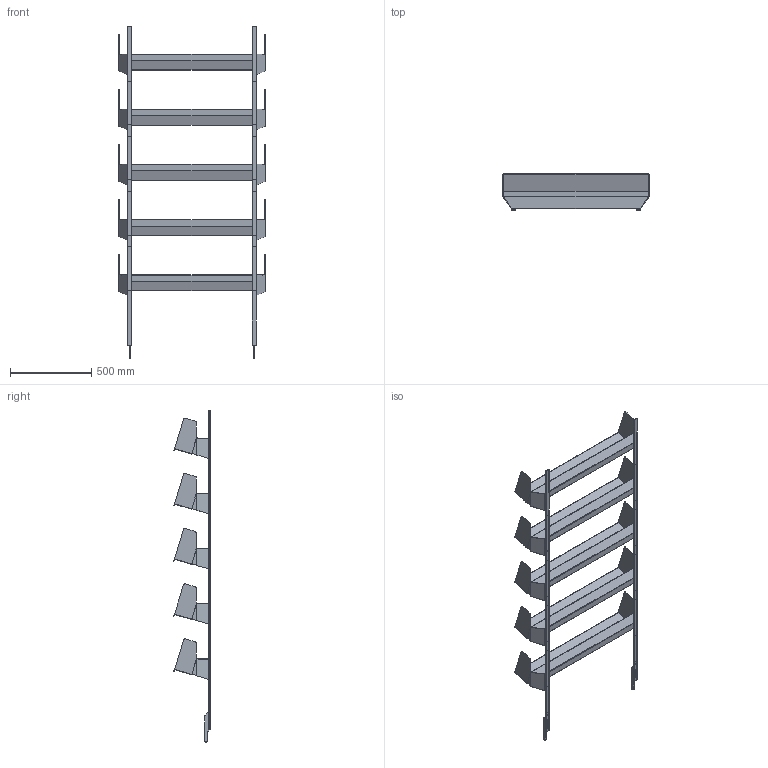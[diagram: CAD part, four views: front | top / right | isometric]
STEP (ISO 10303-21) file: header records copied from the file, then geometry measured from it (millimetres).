
FILE_DESCRIPTION(/* description */ (''),/* implementation_level */ '2;1');
FILE_NAME(/* name */ 'SARMIENTO LIBRERIA 80',/* time_stamp */ '2017-05-31T12:58:27+02:00',/* author */ (''),/* organization */ (''),/* preprocessor_version */ 'ST-DEVELOPER v10',/* originating_system */ '',/* authorisation */ '');
FILE_SCHEMA (('CONFIG_CONTROL_DESIGN'));
Length unit declared in the file: millimetre
Products named in the file (7): 1; 2; 3; 4; 5; 6; 7
Assembly tree (24 placements, depth 3):
  1
    2  x9
    3  x2
      2
      4
      5
    6  x5
    7  x5
Bounding box: 900 x 225.82 x 2045.58 mm (x, y, z)
Volume: 671585.6 mm3; surface area: 4396323.3 mm2
Topology: 15 solids, 20 shells, 982 faces, 2821 edges, 1564 vertices
Faces by surface type: plane 542, bspline 440
Entity records: 7121 total; most frequent: CARTESIAN_POINT 2891, ORIENTED_EDGE 1074, EDGE_CURVE 584, B_SPLINE_CURVE_WITH_KNOTS 467, VERTEX_POINT 326, EDGE_LOOP 215, ADVANCED_FACE 203, FACE_OUTER_BOUND 203
